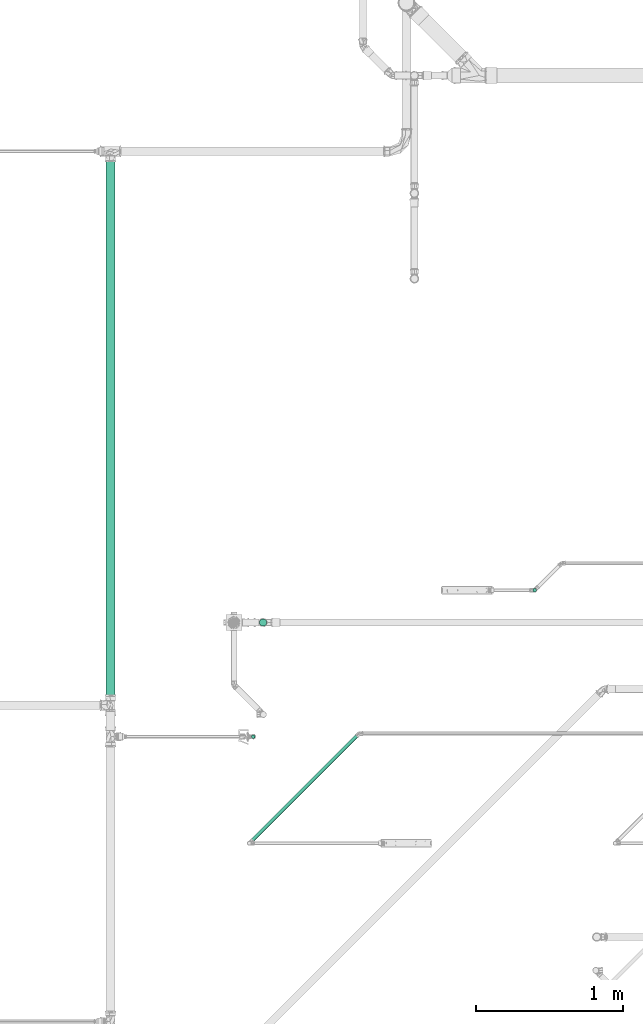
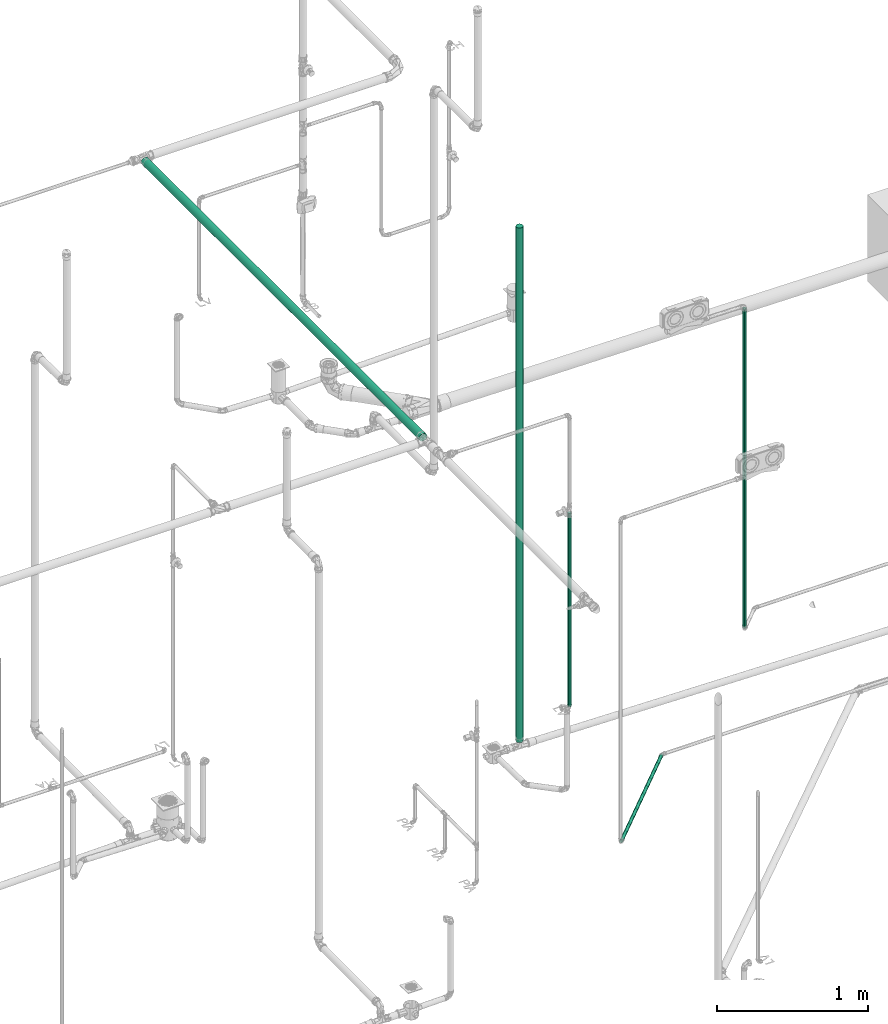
# One storey, part 21 of 589: 5 flow segments.
"""IFC2X3 building model written with IfcOpenShell, lengths in millimetres."""

import ifcopenshell
import ifcopenshell.guid

model = None  # the IFC model being written
_history = None  # IfcOwnerHistory: only IFC2X3 demands one
_inside = {}  # id of a spatial element -> (the spatial element, [elements in it])
_under = {}  # id of a project, library or spatial element -> (it, [spatial elements below it])
_declared = {}  # id of a project -> (the project, [libraries it declares])
_typed = {}  # id of a type object -> (the type object, [elements of that type])
_made_of = {}  # id of a material, layer set ... -> (it, [elements and type objects made of it])


def new_model(schema):
    """Start an empty IFC model of exactly this schema.

    Asked for "IFC4X3", IfcOpenShell would pick the latest addendum, in which some entities
    have other attributes; the version numbers below select the first issue.
    IFC2X3 requires an IfcOwnerHistory on every rooted entity: one is made here for all.
    """
    global model, _history
    if schema == "IFC4X3":
        model = ifcopenshell.file(schema_version=(4, 3, 0, 0))
    else:
        model = ifcopenshell.file(schema=schema)
    _inside.clear()
    _under.clear()
    _declared.clear()
    _typed.clear()
    _made_of.clear()
    _history = None
    if model.schema == "IFC2X3":
        org = make("IfcOrganization", Name="unknown")
        user = make(
            "IfcPersonAndOrganization",
            ThePerson=make("IfcPerson", FamilyName="unknown"),
            TheOrganization=org,
        )
        app = make(
            "IfcApplication",
            ApplicationDeveloper=org,
            Version="unknown",
            ApplicationFullName="unknown",
            ApplicationIdentifier="unknown",
        )
        _history = make(
            "IfcOwnerHistory",
            OwningUser=user,
            OwningApplication=app,
            ChangeAction="ADDED",
            CreationDate=0,
        )
    return model


def make(cls, **values):
    """One entity of the class cls with the attributes given. An attribute that is None is left unset."""
    return model.create_entity(
        cls, **{name: value for name, value in values.items() if value is not None}
    )


def entity(cls, *values):
    """Any entity or typed value of the class cls, its attributes in the order of the schema. None: left unset."""
    e = model.create_entity(cls)
    for i, value in enumerate(values):
        if value is not None:
            e[i] = value
    return e


def rooted(cls, **values):
    """An entity with a GlobalId (a new one), such as an element, a storey or a relation."""
    return make(cls, GlobalId=ifcopenshell.guid.new(), OwnerHistory=_history, **values)


def si_unit(unit_type, name, prefix=None):
    """IfcSIUnit, for example si_unit("LENGTHUNIT", "METRE", prefix="MILLI")."""
    return make("IfcSIUnit", UnitType=unit_type, Prefix=prefix, Name=name)


def converted_unit(unit_type, name, factor, base, dimensions=None, offset=None):
    """IfcConversionBasedUnit, such as the inch: factor (a typed value) times the base unit."""
    return make(
        "IfcConversionBasedUnit"
        if offset is None
        else "IfcConversionBasedUnitWithOffset",
        ConversionOffset=offset,
        Dimensions=None
        if dimensions is None
        else entity("IfcDimensionalExponents", *dimensions),
        UnitType=unit_type,
        Name=name,
        ConversionFactor=make(
            "IfcMeasureWithUnit", ValueComponent=factor, UnitComponent=base
        ),
    )


def derived_unit(unit_type, elements):
    """IfcDerivedUnit: a product of units, each with its exponent."""
    return make(
        "IfcDerivedUnit",
        Elements=[
            make("IfcDerivedUnitElement", Unit=unit, Exponent=power)
            for unit, power in elements
        ],
        UnitType=unit_type,
    )


def assignment(units):
    """IfcUnitAssignment: the units of a project."""
    return None if units is None else make("IfcUnitAssignment", Units=units)


def point(xyz):
    """IfcCartesianPoint."""
    return None if xyz is None else make("IfcCartesianPoint", Coordinates=xyz)


def direction(xyz):
    """IfcDirection."""
    return None if xyz is None else make("IfcDirection", DirectionRatios=xyz)


def frame(location, z_axis=None, x_axis=None):
    """IfcAxis2Placement3D, a coordinate frame: its origin and axes. An axis left out is left unset."""
    return make(
        "IfcAxis2Placement3D",
        Location=point(location),
        Axis=direction(z_axis),
        RefDirection=direction(x_axis),
    )


def frame_2d(location, x_axis=None):
    """IfcAxis2Placement2D, a coordinate frame in the plane: its origin and x axis."""
    return make(
        "IfcAxis2Placement2D", Location=point(location), RefDirection=direction(x_axis)
    )


def origin():
    """The frame at (0, 0, 0) with its axes left unset."""
    return frame((0.0, 0.0, 0.0))


def origin_2d_with_axis():
    """The frame at (0, 0) in the plane with the x axis (1, 0) written out."""
    return frame_2d((0.0, 0.0), x_axis=(1.0, 0.0))


def place(relative_to, where):
    """IfcLocalPlacement: puts the frame where relative to a parent placement (None: the world)."""
    return make(
        "IfcLocalPlacement", PlacementRelTo=relative_to, RelativePlacement=where
    )


def context(
    kind, dimensions, precision=None, world=None, true_north=None, identifier=None
):
    """IfcGeometricRepresentationContext, for example the 3D "Model" context."""
    return make(
        "IfcGeometricRepresentationContext",
        ContextIdentifier=identifier,
        ContextType=kind,
        CoordinateSpaceDimension=dimensions,
        Precision=precision,
        WorldCoordinateSystem=world,
        TrueNorth=true_north,
    )


def subcontext(parent, identifier, kind, view, scale=None):
    """IfcGeometricRepresentationSubContext, for example "Body" below "Model"."""
    return make(
        "IfcGeometricRepresentationSubContext",
        ContextIdentifier=identifier,
        ContextType=kind,
        ParentContext=parent,
        TargetScale=scale,
        TargetView=view,
    )


def project(units=None, contexts=None):
    """IfcProject with its units and contexts."""
    return rooted(
        "IfcProject",
        Name="project",
        RepresentationContexts=contexts,
        UnitsInContext=assignment(units),
    )


def spatial(cls, under=None, at=None, **own):
    """A site, building, storey or space (cls), placed at a placement, below another one or the project."""
    s = rooted(cls, ObjectPlacement=at, **own)
    if under is not None:
        _under.setdefault(under.id(), (under, []))[1].append(s)
    return s


def profile(cls, at=None, kind="AREA", **sizes):
    """A parametric profile (cls). Its sizes go by their IFC names, for example OverallWidth=200.0."""
    return make(cls, ProfileType=kind, Position=at, **sizes)


def circle(**sizes):
    """IfcCircleProfileDef."""
    return profile("IfcCircleProfileDef", **sizes)


def extrude(swept, where, along, depth):
    """IfcExtrudedAreaSolid: the profile swept, set in the frame where, extruded along a direction by depth."""
    return make(
        "IfcExtrudedAreaSolid",
        SweptArea=swept,
        Position=where,
        ExtrudedDirection=direction(along),
        Depth=depth,
    )


def shape(context_of_items, identifier, shape_type, items):
    """IfcShapeRepresentation: the items that make up one representation, for example the "Body"."""
    return make(
        "IfcShapeRepresentation",
        ContextOfItems=context_of_items,
        RepresentationIdentifier=identifier,
        RepresentationType=shape_type,
        Items=items,
    )


def made_of(thing, what):
    """Note that an element or type object is made of a material, layer set ...; save() writes the relation."""
    if what is not None:
        _made_of.setdefault(what.id(), (what, []))[1].append(thing)
    return thing


def type_object(cls, material=None, **own):
    """A type object (cls), such as IfcWallType, which elements share."""
    return made_of(rooted(cls, **own), material)


def element(
    cls,
    number,
    at=None,
    inside=None,
    cuts=None,
    type_object=None,
    material=None,
    context=None,
    identifier="Body",
    shape_type=None,
    held_by="IfcProductDefinitionShape",
    body=None,
    shapes=None,
    **own,
):
    """One element of the class cls, such as IfcWall. Its Tag is "e" and its number.

    at: its placement. inside: the storey or other place that contains it. cuts: it is an
    opening in that element (IfcRelVoidsElement). A single representation is given by context,
    identifier, shape_type and body (its items); several are given by shapes. held_by: the class
    of the entity that holds the representations. save() writes the other relations.
    """
    e = rooted(cls, Tag="e%d" % number, ObjectPlacement=at, **own)
    if body is not None:
        shapes = [shape(context, identifier, shape_type, body)]
    if shapes is not None:
        e.Representation = make(held_by, Representations=shapes)
    if inside is not None:
        _inside.setdefault(inside.id(), (inside, []))[1].append(e)
    if cuts is not None:
        rooted(
            "IfcRelVoidsElement", RelatingBuildingElement=cuts, RelatedOpeningElement=e
        )
    if type_object is not None:
        _typed.setdefault(type_object.id(), (type_object, []))[1].append(e)
    return made_of(e, material)


def aggregate(whole, parts):
    """IfcRelAggregates: a whole, such as a stair, and the parts it consists of."""
    return rooted("IfcRelAggregates", RelatingObject=whole, RelatedObjects=parts)


def save(model, path):
    """Write the relations noted so far, then the file.

    IfcRelAggregates (storeys below a building ...), IfcRelContainedInSpatialStructure (elements
    in a storey), IfcRelDefinesByType, IfcRelAssociatesMaterial and IfcRelDeclares: one each for
    every whole, place, type object, material and project.
    """
    for whole, parts in _under.values():
        aggregate(whole, parts)
    for where, things in _inside.values():
        rooted(
            "IfcRelContainedInSpatialStructure",
            RelatedElements=things,
            RelatingStructure=where,
        )
    for kind, things in _typed.values():
        rooted("IfcRelDefinesByType", RelatedObjects=things, RelatingType=kind)
    for what, things in _made_of.values():
        rooted("IfcRelAssociatesMaterial", RelatedObjects=things, RelatingMaterial=what)
    for by, libraries in _declared.values():
        rooted("IfcRelDeclares", RelatingContext=by, RelatedDefinitions=libraries)
    model.write(path)


model = new_model("IFC2X3")

# Units and contexts
model_context = context("Model", 3, precision=0.01, world=origin(), true_north=direction((6.123031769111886e-17, 1.0)))
body_context = subcontext(model_context, "Body", "Model", "MODEL_VIEW")
ifc_project = project(units=[si_unit("LENGTHUNIT", "METRE", prefix="MILLI"), si_unit("AREAUNIT", "SQUARE_METRE"), si_unit("VOLUMEUNIT", "CUBIC_METRE"), converted_unit("PLANEANGLEUNIT", "DEGREE", entity("IfcRatioMeasure", 0.017453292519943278), si_unit("PLANEANGLEUNIT", "RADIAN"), dimensions=[0, 0, 0, 0, 0, 0, 0]), si_unit("MASSUNIT", "GRAM", prefix="KILO"), derived_unit("MASSDENSITYUNIT", [(si_unit("MASSUNIT", "GRAM", prefix="KILO"), 1), (si_unit("LENGTHUNIT", "METRE"), -3)]), derived_unit("IONCONCENTRATIONUNIT", [(si_unit("MASSUNIT", "GRAM", prefix="KILO"), 1), (si_unit("LENGTHUNIT", "METRE"), -3)]), derived_unit("MOMENTOFINERTIAUNIT", [(si_unit("LENGTHUNIT", "METRE"), 4)]), si_unit("TIMEUNIT", "SECOND"), si_unit("FREQUENCYUNIT", "HERTZ"), si_unit("THERMODYNAMICTEMPERATUREUNIT", "DEGREE_CELSIUS"), derived_unit("THERMALTRANSMITTANCEUNIT", [(si_unit("MASSUNIT", "GRAM", prefix="KILO"), 1), (si_unit("THERMODYNAMICTEMPERATUREUNIT", "KELVIN"), -1), (si_unit("TIMEUNIT", "SECOND"), -3)]), derived_unit("THERMALCONDUCTANCEUNIT", [(si_unit("MASSUNIT", "GRAM", prefix="KILO"), 1), (si_unit("THERMODYNAMICTEMPERATUREUNIT", "KELVIN"), -1), (si_unit("TIMEUNIT", "SECOND"), -3), (si_unit("LENGTHUNIT", "METRE"), 1)]), derived_unit("VOLUMETRICFLOWRATEUNIT", [(si_unit("LENGTHUNIT", "METRE"), 3), (si_unit("TIMEUNIT", "SECOND"), -1)]), derived_unit("MASSFLOWRATEUNIT", [(si_unit("MASSUNIT", "GRAM", prefix="KILO"), 1), (si_unit("TIMEUNIT", "SECOND"), -1)]), derived_unit("ROTATIONALFREQUENCYUNIT", [(si_unit("TIMEUNIT", "SECOND"), -1)]), si_unit("ELECTRICCURRENTUNIT", "AMPERE"), si_unit("ELECTRICVOLTAGEUNIT", "VOLT"), si_unit("POWERUNIT", "WATT"), si_unit("FORCEUNIT", "NEWTON", prefix="KILO"), si_unit("ILLUMINANCEUNIT", "LUX"), si_unit("LUMINOUSFLUXUNIT", "LUMEN"), si_unit("LUMINOUSINTENSITYUNIT", "CANDELA"), derived_unit("USERDEFINED", [(si_unit("MASSUNIT", "GRAM", prefix="KILO"), -1), (si_unit("LENGTHUNIT", "METRE"), -2), (si_unit("TIMEUNIT", "SECOND"), 3), (si_unit("LUMINOUSFLUXUNIT", "LUMEN"), 1)]), derived_unit("USERDEFINED", [(si_unit("MASSUNIT", "GRAM", prefix="KILO"), 1), (si_unit("TIMEUNIT", "SECOND"), -3), (si_unit("LENGTHUNIT", "METRE"), 3), (si_unit("ELECTRICCURRENTUNIT", "AMPERE"), -2)]), derived_unit("SOUNDPOWERUNIT", [(si_unit("MASSUNIT", "GRAM", prefix="KILO"), 1), (si_unit("TIMEUNIT", "SECOND"), -3), (si_unit("LENGTHUNIT", "METRE"), 2)]), derived_unit("SOUNDPRESSUREUNIT", [(si_unit("MASSUNIT", "GRAM", prefix="KILO"), 1), (si_unit("LENGTHUNIT", "METRE"), -1), (si_unit("TIMEUNIT", "SECOND"), -2)]), derived_unit("LINEARVELOCITYUNIT", [(si_unit("LENGTHUNIT", "METRE"), 1), (si_unit("TIMEUNIT", "SECOND"), -1)]), si_unit("PRESSUREUNIT", "PASCAL"), derived_unit("USERDEFINED", [(si_unit("MASSUNIT", "GRAM", prefix="KILO"), 1), (si_unit("LENGTHUNIT", "METRE"), -2), (si_unit("TIMEUNIT", "SECOND"), -2)]), derived_unit("LINEARFORCEUNIT", [(si_unit("MASSUNIT", "GRAM", prefix="KILO"), 1), (si_unit("TIMEUNIT", "SECOND"), -2)]), derived_unit("PLANARFORCEUNIT", [(si_unit("MASSUNIT", "GRAM", prefix="KILO"), 1), (si_unit("LENGTHUNIT", "METRE"), -1), (si_unit("TIMEUNIT", "SECOND"), -2)]), derived_unit("SPECIFICHEATCAPACITYUNIT", [(si_unit("THERMODYNAMICTEMPERATUREUNIT", "KELVIN"), -1), (si_unit("LENGTHUNIT", "METRE"), 2), (si_unit("TIMEUNIT", "SECOND"), -2)]), derived_unit("HEATINGVALUEUNIT", [(si_unit("LENGTHUNIT", "METRE"), 2), (si_unit("TIMEUNIT", "SECOND"), -2)]), derived_unit("VAPORPERMEABILITYUNIT", [(si_unit("LENGTHUNIT", "METRE"), -1), (si_unit("TIMEUNIT", "SECOND"), 1)]), derived_unit("DYNAMICVISCOSITYUNIT", [(si_unit("MASSUNIT", "GRAM", prefix="KILO"), 1), (si_unit("TIMEUNIT", "SECOND"), -1), (si_unit("LENGTHUNIT", "METRE"), -1)]), derived_unit("THERMALEXPANSIONCOEFFICIENTUNIT", [(si_unit("THERMODYNAMICTEMPERATUREUNIT", "KELVIN"), -1)]), derived_unit("MODULUSOFELASTICITYUNIT", [(si_unit("MASSUNIT", "GRAM", prefix="KILO"), 1), (si_unit("LENGTHUNIT", "METRE"), -1), (si_unit("TIMEUNIT", "SECOND"), -2)]), derived_unit("ISOTHERMALMOISTURECAPACITYUNIT", [(si_unit("LENGTHUNIT", "METRE"), 3), (si_unit("MASSUNIT", "GRAM", prefix="KILO"), -1)]), derived_unit("MOISTUREDIFFUSIVITYUNIT", [(si_unit("TIMEUNIT", "SECOND"), -1), (si_unit("LENGTHUNIT", "METRE"), 2)])], contexts=[model_context])

# Site, building, storey
site_placement = place(None, origin())
site = spatial("IfcSite", under=ifc_project, at=site_placement, Name="Default", CompositionType="ELEMENT")
building_placement = place(site_placement, origin())
building = spatial("IfcBuilding", under=site, at=building_placement, CompositionType="ELEMENT")
storey_placement = place(building_placement, frame((0.0, 0.0, 100.0)))
storey = spatial("IfcBuildingStorey", under=building, at=storey_placement, Name="TÉRREO", CompositionType="ELEMENT", Elevation=100.0)

# Flow segments
pipe_segment_type_1 = type_object("IfcPipeSegmentType", Name="Tipos de tubos:PVC Esgoto Série Normal", PredefinedType="NOTDEFINED")
flow_segment_1_placement = place(storey_placement, origin())
element("IfcFlowSegment", 1, at=flow_segment_1_placement, inside=storey, type_object=pipe_segment_type_1, Name="Tipos de tubos:PVC Esgoto Série Normal", ObjectType="Tipos de tubos:PVC Esgoto Série Normal", context=body_context, shape_type="SweptSolid", body=[
    extrude(circle(Radius=25.0, at=frame_2d((4.169438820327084e-20, 1.2214951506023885e-20), x_axis=(1.0, 0.0))), frame((5081.246634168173, 2985.727459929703, -154.26730591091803), z_axis=(4.92847325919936e-06, 1.4438648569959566e-06, 1.0), x_axis=(-1.0, 0.0, 4.9284732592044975e-06)), (0.0, 0.0, 1.0), 4154.267305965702),
])
pipe_segment_type_2 = type_object("IfcPipeSegmentType", Name="Tipos de tubos:PVC Marrom Soldável", PredefinedType="NOTDEFINED")
flow_segment_2_placement = place(storey_placement, origin())
element("IfcFlowSegment", 2, at=flow_segment_2_placement, inside=storey, type_object=pipe_segment_type_2, Name="Tipos de tubos:PVC Marrom Soldável", ObjectType="Tipos de tubos:PVC Marrom Soldável", context=body_context, shape_type="SweptSolid", body=[
    extrude(circle(Radius=12.5, at=origin_2d_with_axis()), frame((5014.97296767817, 2211.0703177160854, 616.3000000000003), z_axis=(0.0, 0.0, 1.0), x_axis=(-1.0, 0.0, 0.0)), (0.0, 0.0, 1.0), 1563.6999999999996),
])
flow_segment_3_placement = place(storey_placement, origin())
element("IfcFlowSegment", 3, at=flow_segment_3_placement, inside=storey, type_object=pipe_segment_type_2, Name="Tipos de tubos:PVC Marrom Soldável", ObjectType="Tipos de tubos:PVC Marrom Soldável", context=body_context, shape_type="SweptSolid", body=[
    extrude(circle(Radius=30.0, at=origin_2d_with_axis()), frame((4045.7158682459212, 2467.557557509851, 2970.0), z_axis=(0.0, 1.0, 0.0), x_axis=(1.0, 0.0, 0.0)), (0.0, 0.0, 1.0), 3677.1645754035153),
])
flow_segment_4_placement = place(storey_placement, origin())
element("IfcFlowSegment", 4, at=flow_segment_4_placement, inside=storey, type_object=pipe_segment_type_2, Name="Tipos de tubos:PVC Marrom Soldável", ObjectType="Tipos de tubos:PVC Marrom Soldável", context=body_context, shape_type="SweptSolid", body=[
    extrude(circle(Radius=12.5, at=origin_2d_with_axis()), frame((6925.094144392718, 3204.961595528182, -20.75991403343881)), (0.0, 0.0, 1.0), 2580.5896578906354),
])
flow_segment_5_placement = place(storey_placement, origin())
element("IfcFlowSegment", 5, at=flow_segment_5_placement, inside=storey, type_object=pipe_segment_type_2, Name="Tipos de tubos:PVC Marrom Soldável", ObjectType="Tipos de tubos:PVC Marrom Soldável", context=body_context, shape_type="SweptSolid", body=[
    extrude(circle(Radius=12.5, at=frame_2d((7.657026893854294e-13, -8.459899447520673e-15), x_axis=(1.0, 0.0))), frame((4999.984669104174, 1498.9454780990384, -37.352537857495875), z_axis=(0.7071067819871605, 0.7071067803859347, 0.0), x_axis=(0.7071067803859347, -0.7071067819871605, 0.0)), (0.0, 0.0, 1.0), 1029.9086509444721),
])

save(model, "model.ifc")
